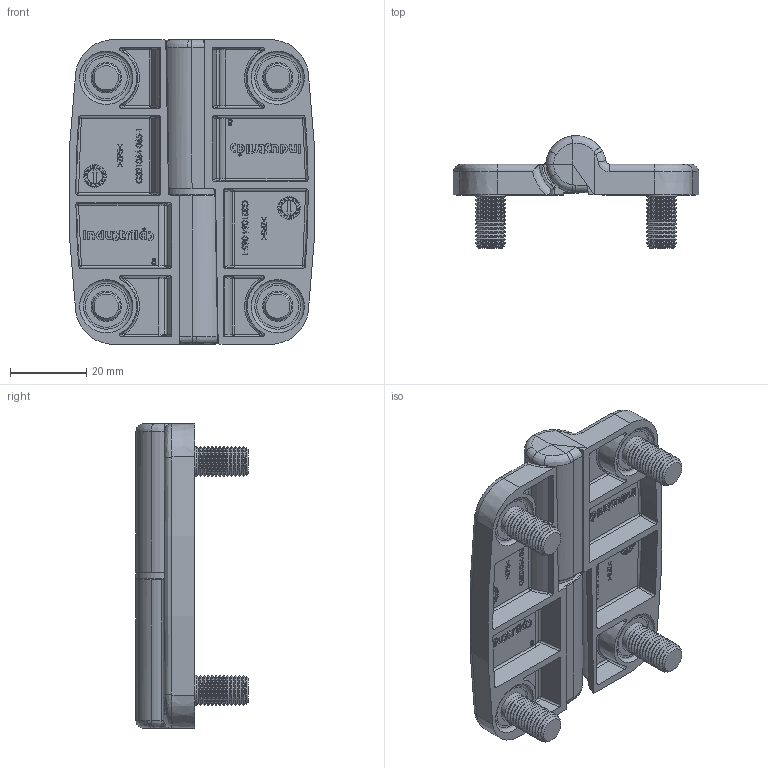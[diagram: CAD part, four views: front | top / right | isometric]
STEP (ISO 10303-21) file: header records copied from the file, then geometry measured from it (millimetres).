
FILE_DESCRIPTION (( 'STEP AP214' ), '1' );
FILE_NAME ('321664-065_Industrilas.step', '2020-05-18T20:42:46', ( '' ), ( '' ), 'SwSTEP 2.0', 'SolidWorks 2010', '' );
FILE_SCHEMA (( 'AUTOMOTIVE_DESIGN' ));
Length unit declared in the file: millimetre
Products named in the file (6): 00012287; g321064-065-1; G321064-065-1-1_G321064-065-1-1; 00009710_013090-020-8; 00009483; 321664-065_Industrilas
Assembly tree (7 placements, depth 3):
  321664-065_Industrilas
    00009483
    g321064-065-1  x2
      00009710_013090-020-8
      G321064-065-1-1_G321064-065-1-1
    00012287
Bounding box: 64.56 x 29.5 x 80 mm (x, y, z)
Volume: 33659.4 mm3; surface area: 26578.1 mm2
Topology: 8 solids, 8 shells, 1870 faces, 4612 edges, 2938 vertices
Faces by surface type: plane 890, bspline 646, cylinder 204, cone 130
Full cylindrical faces by diameter (mm): 0.636 x2, 4 x2, 4.04 x2, 8 x54, 8.1 x1, 11 x8, 14 x1, 14.5 x8
Entity records: 50396 total; most frequent: CARTESIAN_POINT 30658, ORIENTED_EDGE 4386, DIRECTION 3130, EDGE_CURVE 2193, VERTEX_POINT 1437, LINE 1308, VECTOR 1308, EDGE_LOOP 1088
